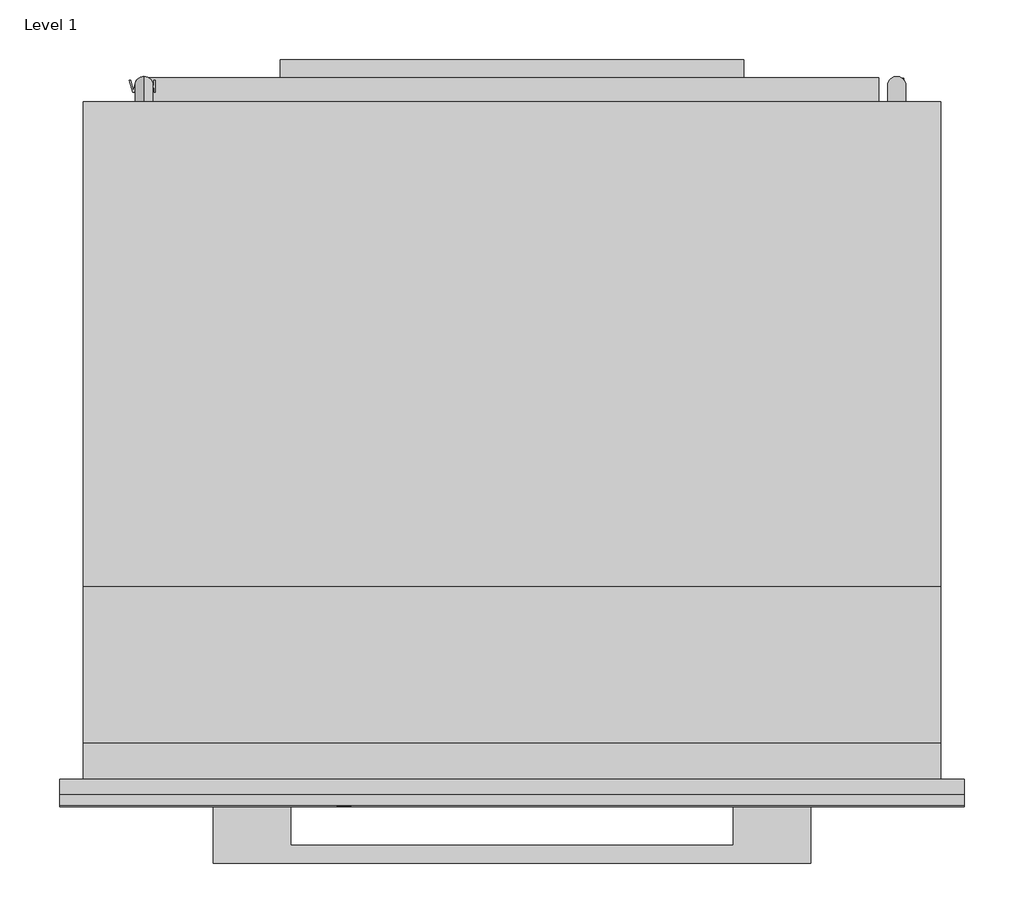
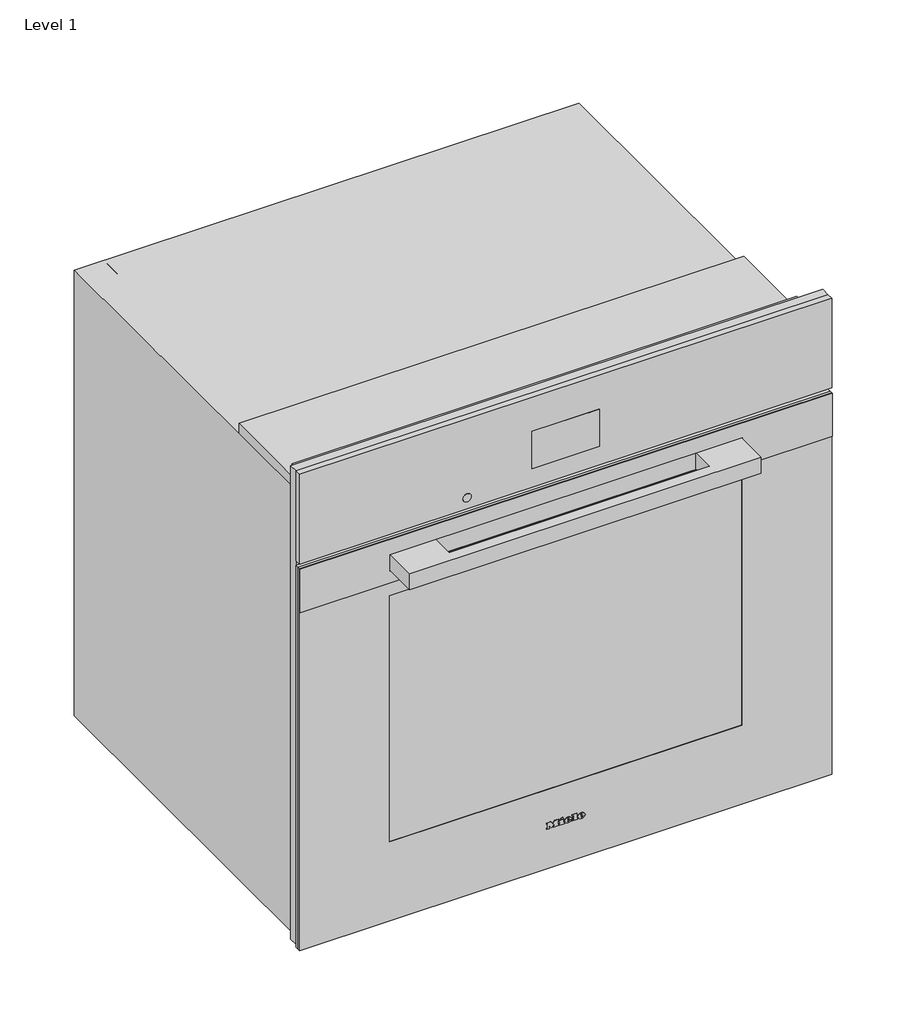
# One storey: 1 proxy.
"""IFC4 building model written with IfcOpenShell, lengths in millimetres."""

from ifc_helpers import new_model, si_unit, origin, place, context, project, spatial, transform, mapped, element, save
from components import specialty_equipment_48775440

model = new_model("IFC4")

# Units and contexts
model_context = context("Model", 3, world=origin())
ifc_project = project(units=[si_unit("LENGTHUNIT", "METRE", prefix="MILLI")], contexts=[model_context])

# Site, building, storey
site = spatial("IfcSite", under=ifc_project)
building = spatial("IfcBuilding", under=site)
storey = spatial("IfcBuildingStorey", under=building, Name="Level 1", Elevation=0.0)

# Proxy
placement = place(None, origin())
specialty_equipment_shape = specialty_equipment_48775440(model_context)
element("IfcBuildingElementProxy", 1, Name="11805550_USA_H7680BP_EDST-CLST : 22768045_USA_11805550_H7680BP_EDST-CLST", ObjectType="11805550_USA_H7680BP_EDST-CLST : 22768045_USA_11805550_H7680BP_EDST-CLST", at=placement, inside=storey, context=model_context, shape_type="MappedRepresentation", body=[
    mapped(specialty_equipment_shape, transform((0.0, 0.0, 0.0), x_axis=(1.0, 0.0, 0.0), y_axis=(0.0, 1.0, 0.0), z_axis=(0.0, 0.0, 1.0))),
])

save(model, "model.ifc")
